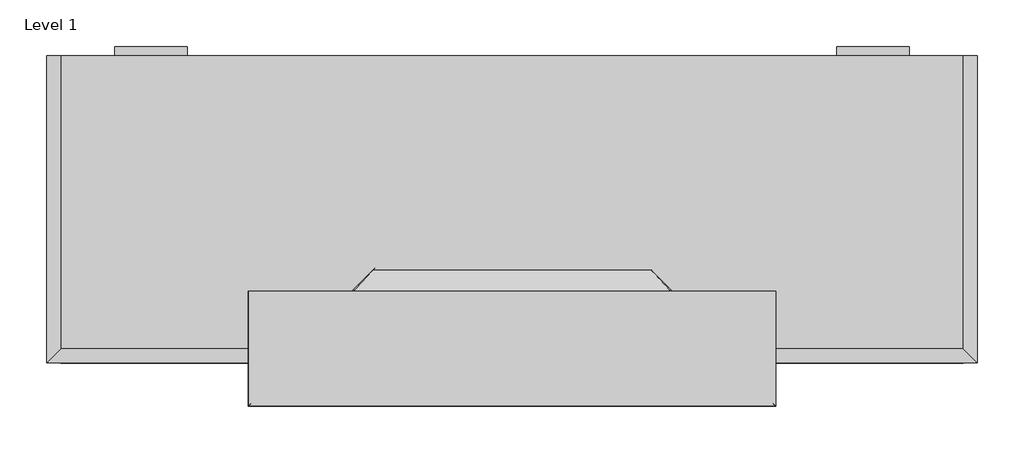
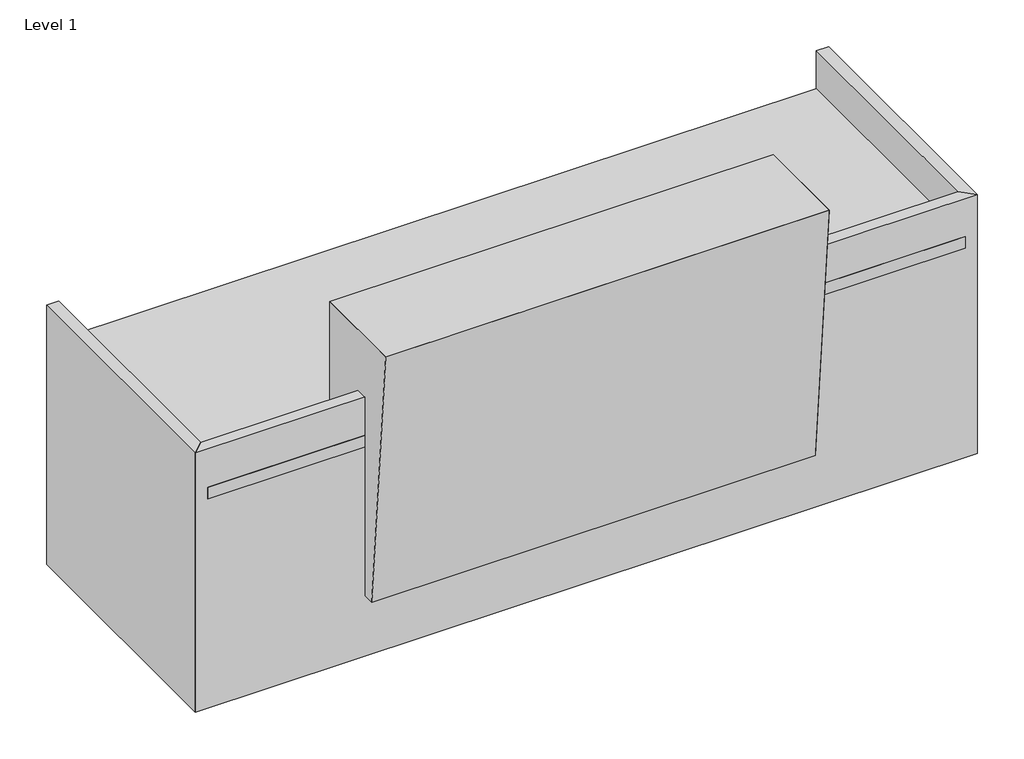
# One storey: 6 proxies.
"""IFC4 building model written with IfcOpenShell, lengths in millimetres."""

import ifcopenshell
import ifcopenshell.guid

model = None  # the IFC model being written
_history = None  # IfcOwnerHistory: only IFC2X3 demands one
_inside = {}  # id of a spatial element -> (the spatial element, [elements in it])
_under = {}  # id of a project, library or spatial element -> (it, [spatial elements below it])
_declared = {}  # id of a project -> (the project, [libraries it declares])
_typed = {}  # id of a type object -> (the type object, [elements of that type])
_made_of = {}  # id of a material, layer set ... -> (it, [elements and type objects made of it])


def new_model(schema):
    """Start an empty IFC model of exactly this schema.

    Asked for "IFC4X3", IfcOpenShell would pick the latest addendum, in which some entities
    have other attributes; the version numbers below select the first issue.
    IFC2X3 requires an IfcOwnerHistory on every rooted entity: one is made here for all.
    """
    global model, _history
    if schema == "IFC4X3":
        model = ifcopenshell.file(schema_version=(4, 3, 0, 0))
    else:
        model = ifcopenshell.file(schema=schema)
    _inside.clear()
    _under.clear()
    _declared.clear()
    _typed.clear()
    _made_of.clear()
    _history = None
    if model.schema == "IFC2X3":
        org = make("IfcOrganization", Name="unknown")
        user = make(
            "IfcPersonAndOrganization",
            ThePerson=make("IfcPerson", FamilyName="unknown"),
            TheOrganization=org,
        )
        app = make(
            "IfcApplication",
            ApplicationDeveloper=org,
            Version="unknown",
            ApplicationFullName="unknown",
            ApplicationIdentifier="unknown",
        )
        _history = make(
            "IfcOwnerHistory",
            OwningUser=user,
            OwningApplication=app,
            ChangeAction="ADDED",
            CreationDate=0,
        )
    return model


def make(cls, **values):
    """One entity of the class cls with the attributes given. An attribute that is None is left unset."""
    return model.create_entity(
        cls, **{name: value for name, value in values.items() if value is not None}
    )


def rooted(cls, **values):
    """An entity with a GlobalId (a new one), such as an element, a storey or a relation."""
    return make(cls, GlobalId=ifcopenshell.guid.new(), OwnerHistory=_history, **values)


def si_unit(unit_type, name, prefix=None):
    """IfcSIUnit, for example si_unit("LENGTHUNIT", "METRE", prefix="MILLI")."""
    return make("IfcSIUnit", UnitType=unit_type, Prefix=prefix, Name=name)


def assignment(units):
    """IfcUnitAssignment: the units of a project."""
    return None if units is None else make("IfcUnitAssignment", Units=units)


def point(xyz):
    """IfcCartesianPoint."""
    return None if xyz is None else make("IfcCartesianPoint", Coordinates=xyz)


def direction(xyz):
    """IfcDirection."""
    return None if xyz is None else make("IfcDirection", DirectionRatios=xyz)


def frame(location, z_axis=None, x_axis=None):
    """IfcAxis2Placement3D, a coordinate frame: its origin and axes. An axis left out is left unset."""
    return make(
        "IfcAxis2Placement3D",
        Location=point(location),
        Axis=direction(z_axis),
        RefDirection=direction(x_axis),
    )


def origin():
    """The frame at (0, 0, 0) with its axes left unset."""
    return frame((0.0, 0.0, 0.0))


def place(relative_to, where):
    """IfcLocalPlacement: puts the frame where relative to a parent placement (None: the world)."""
    return make(
        "IfcLocalPlacement", PlacementRelTo=relative_to, RelativePlacement=where
    )


def context(
    kind, dimensions, precision=None, world=None, true_north=None, identifier=None
):
    """IfcGeometricRepresentationContext, for example the 3D "Model" context."""
    return make(
        "IfcGeometricRepresentationContext",
        ContextIdentifier=identifier,
        ContextType=kind,
        CoordinateSpaceDimension=dimensions,
        Precision=precision,
        WorldCoordinateSystem=world,
        TrueNorth=true_north,
    )


def project(units=None, contexts=None):
    """IfcProject with its units and contexts."""
    return rooted(
        "IfcProject",
        Name="project",
        RepresentationContexts=contexts,
        UnitsInContext=assignment(units),
    )


def spatial(cls, under=None, at=None, **own):
    """A site, building, storey or space (cls), placed at a placement, below another one or the project."""
    s = rooted(cls, ObjectPlacement=at, **own)
    if under is not None:
        _under.setdefault(under.id(), (under, []))[1].append(s)
    return s


def polyline(points):
    """IfcPolyline through the points."""
    return make("IfcPolyline", Points=[point(p) for p in points])


def outline(outer, holes=None, kind="AREA"):
    """IfcArbitraryClosedProfileDef: a profile drawn as a closed curve; with holes, ...WithVoids."""
    if holes is None:
        return make("IfcArbitraryClosedProfileDef", ProfileType=kind, OuterCurve=outer)
    return make(
        "IfcArbitraryProfileDefWithVoids",
        ProfileType=kind,
        OuterCurve=outer,
        InnerCurves=holes,
    )


def extrude(swept, where, along, depth):
    """IfcExtrudedAreaSolid: the profile swept, set in the frame where, extruded along a direction by depth."""
    return make(
        "IfcExtrudedAreaSolid",
        SweptArea=swept,
        Position=where,
        ExtrudedDirection=direction(along),
        Depth=depth,
    )


def faces_of(points, faces, orient=None, outer=None):
    """IfcFace entities. A face is a list of loops; a loop is a list of indices into points, from 0.

    orient and outer hold one flag for each loop. By default every Orientation is true, the
    first loop of a face is its IfcFaceOuterBound and the others are IfcFaceBound.
    """
    made = []
    for i, loops in enumerate(faces):
        bounds = []
        for j, loop in enumerate(loops):
            is_outer = j == 0 if outer is None else outer[i][j]
            bounds.append(
                make(
                    "IfcFaceOuterBound" if is_outer else "IfcFaceBound",
                    Bound=make("IfcPolyLoop", Polygon=[points[k] for k in loop]),
                    Orientation=True if orient is None else orient[i][j],
                )
            )
        made.append(make("IfcFace", Bounds=bounds))
    return made


def faceted_brep(points, faces, orient=None, outer=None, voids=None):
    """IfcFacetedBrep: a solid bounded by flat faces; with voids (closed shells), ...WithVoids."""
    shared = [point(p) for p in points]
    hull = make("IfcClosedShell", CfsFaces=faces_of(shared, faces, orient, outer))
    if voids is None:
        return make("IfcFacetedBrep", Outer=hull)
    return make(
        "IfcFacetedBrepWithVoids",
        Outer=hull,
        Voids=[
            make(cls, CfsFaces=faces_of(shared, fs, o, b)) for cls, fs, o, b in voids
        ],
    )


def shape(context_of_items, identifier, shape_type, items):
    """IfcShapeRepresentation: the items that make up one representation, for example the "Body"."""
    return make(
        "IfcShapeRepresentation",
        ContextOfItems=context_of_items,
        RepresentationIdentifier=identifier,
        RepresentationType=shape_type,
        Items=items,
    )


def source(mapping_origin, context_of_items, identifier, shape_type, items):
    """IfcRepresentationMap: a shape defined once, which mapped items show again and again."""
    return make(
        "IfcRepresentationMap",
        MappingOrigin=mapping_origin,
        MappedRepresentation=shape(context_of_items, identifier, shape_type, items),
    )


def transform(
    local_origin,
    x_axis=None,
    y_axis=None,
    z_axis=None,
    scale=None,
    scale2=None,
    scale3=None,
    uniform=True,
):
    """IfcCartesianTransformationOperator3D, or its non-uniform kind. x_axis, y_axis, z_axis: its Axis1, 2, 3."""
    if uniform:
        return make(
            "IfcCartesianTransformationOperator3D",
            Axis1=direction(x_axis),
            Axis2=direction(y_axis),
            LocalOrigin=point(local_origin),
            Scale=scale,
            Axis3=direction(z_axis),
        )
    return make(
        "IfcCartesianTransformationOperator3DnonUniform",
        Axis1=direction(x_axis),
        Axis2=direction(y_axis),
        LocalOrigin=point(local_origin),
        Scale=scale,
        Axis3=direction(z_axis),
        Scale2=scale2,
        Scale3=scale3,
    )


def mapped(mapping_source, mapping_target):
    """IfcMappedItem: shows the shape of a source again, moved by a transform."""
    return make(
        "IfcMappedItem", MappingSource=mapping_source, MappingTarget=mapping_target
    )


def made_of(thing, what):
    """Note that an element or type object is made of a material, layer set ...; save() writes the relation."""
    if what is not None:
        _made_of.setdefault(what.id(), (what, []))[1].append(thing)
    return thing


def element(
    cls,
    number,
    at=None,
    inside=None,
    cuts=None,
    type_object=None,
    material=None,
    context=None,
    identifier="Body",
    shape_type=None,
    held_by="IfcProductDefinitionShape",
    body=None,
    shapes=None,
    **own,
):
    """One element of the class cls, such as IfcWall. Its Tag is "e" and its number.

    at: its placement. inside: the storey or other place that contains it. cuts: it is an
    opening in that element (IfcRelVoidsElement). A single representation is given by context,
    identifier, shape_type and body (its items); several are given by shapes. held_by: the class
    of the entity that holds the representations. save() writes the other relations.
    """
    e = rooted(cls, Tag="e%d" % number, ObjectPlacement=at, **own)
    if body is not None:
        shapes = [shape(context, identifier, shape_type, body)]
    if shapes is not None:
        e.Representation = make(held_by, Representations=shapes)
    if inside is not None:
        _inside.setdefault(inside.id(), (inside, []))[1].append(e)
    if cuts is not None:
        rooted(
            "IfcRelVoidsElement", RelatingBuildingElement=cuts, RelatedOpeningElement=e
        )
    if type_object is not None:
        _typed.setdefault(type_object.id(), (type_object, []))[1].append(e)
    return made_of(e, material)


def aggregate(whole, parts):
    """IfcRelAggregates: a whole, such as a stair, and the parts it consists of."""
    return rooted("IfcRelAggregates", RelatingObject=whole, RelatedObjects=parts)


def save(model, path):
    """Write the relations noted so far, then the file.

    IfcRelAggregates (storeys below a building ...), IfcRelContainedInSpatialStructure (elements
    in a storey), IfcRelDefinesByType, IfcRelAssociatesMaterial and IfcRelDeclares: one each for
    every whole, place, type object, material and project.
    """
    for whole, parts in _under.values():
        aggregate(whole, parts)
    for where, things in _inside.values():
        rooted(
            "IfcRelContainedInSpatialStructure",
            RelatedElements=things,
            RelatingStructure=where,
        )
    for kind, things in _typed.values():
        rooted("IfcRelDefinesByType", RelatedObjects=things, RelatingType=kind)
    for what, things in _made_of.values():
        rooted("IfcRelAssociatesMaterial", RelatedObjects=things, RelatingMaterial=what)
    for by, libraries in _declared.values():
        rooted("IfcRelDeclares", RelatingContext=by, RelatedDefinitions=libraries)
    model.write(path)


def generic_models_f8b32dde(model_context):
    return source(origin(), model_context, "Body", "SolidModel", [
        extrude(outline(polyline([(-1.5875, 534.9875), (-1331.9125, 534.9875), (-1331.9125, 830.2625), (-1.5875, 830.2625), (-1.5875, 534.9875)])), frame((0.0, 0.0, -19.05), z_axis=(0.0, 0.0, 1.0), x_axis=(1.0, 0.0, 0.0)), (0.0, 0.0, 1.0), 19.05),
        faceted_brep([(-666.75, 0.0, -663.1138026), (31.75, 0.0, 38.1), (-1365.25, 0.0, 38.1), (31.75, 863.6, 114.3), (-666.75, 165.1, -648.5461555), (-1365.25, 863.6, 114.3)], [[[0, 1, 2]], [[3, 4, 5]], [[1, 0, 4, 3]], [[5, 2, 1, 3]], [[0, 2, 5, 4]]]),
        faceted_brep([(-1365.25, 0.0, -190.5), (-1333.5, 0.0, -190.5), (-1333.5, 0.0, 6.2266453), (-1365.25, 0.0, 38.1), (-1333.5, 831.85, -190.5), (-1333.5, 831.85, 79.6251747), (-1365.25, 863.6, 114.3), (-1365.25, 863.6, -190.5)], [[[0, 1, 2, 3]], [[2, 1, 4, 5]], [[6, 3, 2, 5]], [[5, 4, 7, 6]], [[7, 4, 1, 0]], [[0, 3, 6, 7]]]),
        faceted_brep([(0.0, 831.85, 79.6251747), (31.75, 863.6, 114.3), (-1365.25, 863.6, 114.3), (-1333.5, 831.85, 79.6251747), (31.75, 863.6, -190.5), (-1365.25, 863.6, -190.5), (0.0, 831.85, -190.5), (-1333.5, 831.85, -190.5)], [[[0, 1, 2, 3]], [[1, 4, 5, 2]], [[4, 6, 7, 5]], [[6, 0, 3, 7]], [[2, 5, 7, 3]], [[4, 1, 0, 6]]]),
        faceted_brep([(0.0, 0.0, -190.5), (31.75, 0.0, -190.5), (31.75, 0.0, 38.1), (0.0, 0.0, 6.2266453), (31.75, 863.6, 114.3), (31.75, 863.6, -190.5), (0.0, 831.85, -190.5), (0.0, 831.85, 79.6251747)], [[[0, 1, 2, 3]], [[4, 5, 6, 7]], [[7, 3, 2, 4]], [[6, 5, 1, 0]], [[1, 5, 4, 2]], [[7, 6, 0, 3]]]),
    ])


def generic_models_16f8150b(model_context):
    return source(origin(), model_context, "Body", "SweptSolid", [
        extrude(outline(polyline([(234.6325, 0.0), (42.8625, 0.0), (42.8625, 8.89), (234.6325, 8.89), (234.6325, 0.0)])), frame((0.0, 0.0, 25.4), z_axis=(0.0, 0.0, 1.0), x_axis=(1.0, 0.0, 0.0)), (0.0, 0.0, 1.0), 27.94),
    ])


def generic_models_c95edcf3(model_context):
    return source(origin(), model_context, "Body", "SweptSolid", [
        extrude(outline(polyline([(2425.7, 19.05), (2406.65, 19.05), (2406.65, 698.5), (2425.7, 698.5), (2425.7, 19.05)])), frame((0.0, 0.0, -749.3), z_axis=(0.0, 0.0, 1.0), x_axis=(1.0, 0.0, 0.0)), (0.0, 0.0, 1.0), 749.3),
        extrude(outline(polyline([(0.0, 2425.7), (-774.7, 2425.7), (-774.7, 2463.8), (38.1, 2463.8), (0.0, 2425.7)])), frame((0.0, 0.0, 0.0), z_axis=(0.0, 1.0, 0.0), x_axis=(0.0, 0.0, 1.0)), (0.0, 0.0, 1.0), 863.6),
        extrude(outline(polyline([(1968.5, 698.5), (2406.65, 698.5), (2406.65, 679.45), (1968.5, 679.45), (1968.5, 698.5)])), frame((0.0, 0.0, -749.3), z_axis=(0.0, 0.0, 1.0), x_axis=(1.0, 0.0, 0.0)), (0.0, 0.0, 1.0), 730.25),
        extrude(outline(polyline([(57.15, 19.05), (57.15, 698.5), (495.3, 698.5), (495.3, 19.05), (57.15, 19.05)])), frame((0.0, 0.0, -19.05), z_axis=(0.0, 0.0, 1.0), x_axis=(1.0, 0.0, 0.0)), (0.0, 0.0, 1.0), 19.05),
        extrude(outline(polyline([(2423.31875, 354.80625), (1951.83125, 354.80625), (1951.83125, 524.271875), (2423.31875, 524.271875), (2423.31875, 354.80625)])), frame((0.0, 0.0, -771.525), z_axis=(0.0, 0.0, 1.0), x_axis=(1.0, 0.0, 0.0)), (0.0, 0.0, 1.0), 19.05),
        extrude(outline(polyline([(57.15, 698.5), (495.3, 698.5), (495.3, 679.45), (57.15, 679.45), (57.15, 698.5)])), frame((0.0, 0.0, -749.3), z_axis=(0.0, 0.0, 1.0), x_axis=(1.0, 0.0, 0.0)), (0.0, 0.0, 1.0), 730.25),
        extrude(outline(polyline([(38.1, 698.5), (57.15, 698.5), (57.15, 19.05), (38.1, 19.05), (38.1, 698.5)])), frame((0.0, 0.0, -749.3), z_axis=(0.0, 0.0, 1.0), x_axis=(1.0, 0.0, 0.0)), (0.0, 0.0, 1.0), 749.3),
        extrude(outline(polyline([(38.1, 698.5), (38.1, 736.6), (2425.7, 736.6), (2425.7, 698.5), (38.1, 698.5)])), frame((0.0, 0.0, -774.7), z_axis=(0.0, 0.0, 1.0), x_axis=(1.0, 0.0, 0.0)), (0.0, 0.0, 1.0), 812.8),
        extrude(outline(polyline([(511.96875, 696.11875), (511.96875, 19.05), (40.48125, 19.05), (40.48125, 696.11875), (511.96875, 696.11875)])), frame((0.0, 0.0, -771.525), z_axis=(0.0, 0.0, 1.0), x_axis=(1.0, 0.0, 0.0)), (0.0, 0.0, 1.0), 19.05),
        extrude(outline(polyline([(2406.65, 698.5), (2406.65, 19.05), (1968.5, 19.05), (1968.5, 698.5), (2406.65, 698.5)])), frame((0.0, 0.0, -19.05), z_axis=(0.0, 0.0, 1.0), x_axis=(1.0, 0.0, 0.0)), (0.0, 0.0, 1.0), 19.05),
        extrude(outline(polyline([(495.3, 38.1), (495.3, 0.0), (57.15, 0.0), (57.15, 38.1), (495.3, 38.1)])), frame((0.0, 0.0, -749.3), z_axis=(0.0, 0.0, 1.0), x_axis=(1.0, 0.0, 0.0)), (0.0, 0.0, 1.0), 730.25),
        extrude(outline(polyline([(2406.65, 38.1), (2406.65, 0.0), (1968.5, 0.0), (1968.5, 38.1), (2406.65, 38.1)])), frame((0.0, 0.0, -749.3), z_axis=(0.0, 0.0, 1.0), x_axis=(1.0, 0.0, 0.0)), (0.0, 0.0, 1.0), 730.25),
        extrude(outline(polyline([(2423.31875, 526.653125), (1951.83125, 526.653125), (1951.83125, 696.11875), (2423.31875, 696.11875), (2423.31875, 526.653125)])), frame((0.0, 0.0, -771.525), z_axis=(0.0, 0.0, 1.0), x_axis=(1.0, 0.0, 0.0)), (0.0, 0.0, 1.0), 19.05),
        extrude(outline(polyline([(38.1, 0.0), (-774.7, 0.0), (-774.7, 38.1), (0.0, 38.1), (38.1, 0.0)])), frame((0.0, 0.0, 0.0), z_axis=(0.0, 1.0, 0.0), x_axis=(0.0, 0.0, 1.0)), (0.0, 0.0, 1.0), 863.6),
        extrude(outline(polyline([(495.3, 19.05), (495.3, 698.5), (514.35, 698.5), (514.35, 19.05), (495.3, 19.05)])), frame((0.0, 0.0, -749.3), z_axis=(0.0, 0.0, 1.0), x_axis=(1.0, 0.0, 0.0)), (0.0, 0.0, 1.0), 749.3),
        extrude(outline(polyline([(1968.5, 698.5), (1968.5, 19.05), (1949.45, 19.05), (1949.45, 698.5), (1968.5, 698.5)])), frame((0.0, 0.0, -749.3), z_axis=(0.0, 0.0, 1.0), x_axis=(1.0, 0.0, 0.0)), (0.0, 0.0, 1.0), 749.3),
        extrude(outline(polyline([(2423.31875, 352.425), (2423.31875, 19.05), (1951.83125, 19.05), (1951.83125, 352.425), (2423.31875, 352.425)])), frame((0.0, 0.0, -771.525), z_axis=(0.0, 0.0, 1.0), x_axis=(1.0, 0.0, 0.0)), (0.0, 0.0, 1.0), 19.05),
        extrude(outline(polyline([(38.1, 0.0), (0.0, 38.1), (0.0, 2425.7), (38.1, 2463.8), (38.1, 0.0)])), frame((0.0, 0.0, 0.0), z_axis=(0.0, 1.0, 0.0), x_axis=(0.0, 0.0, 1.0)), (0.0, 0.0, 1.0), 863.6),
    ])


model = new_model("IFC4")

# Units and contexts
model_context = context("Model", 3, world=origin())
ifc_project = project(units=[si_unit("LENGTHUNIT", "METRE", prefix="MILLI")], contexts=[model_context])

# Site, building, storey
site = spatial("IfcSite", under=ifc_project)
building = spatial("IfcBuilding", under=site)
storey = spatial("IfcBuildingStorey", under=building, Name="Level 1", Elevation=0.0)

# Proxies
placement = place(None, origin())
generic_models_shape = generic_models_f8b32dde(model_context)
element("IfcBuildingElementProxy", 1, Name="SALUTE^ADMIN_34x55 SLOPED TRANS-PARTS SOLID", ObjectType="SALUTE^ADMIN_34x55 SLOPED TRANS-PARTS SOLID", at=placement, inside=storey, context=model_context, shape_type="MappedRepresentation", body=[
    mapped(generic_models_shape, transform((1898.65, -812.8, 203.2), x_axis=(1.0, 0.0, 0.0), y_axis=(0.0, 0.0, 1.0), z_axis=(0.0, -1.0, 0.0))),
])
generic_models_2_shape = generic_models_16f8150b(model_context)
element("IfcBuildingElementProxy", 2, Name="HAFELE 102.12.004-7_5 INCH", ObjectType="HAFELE 102.12.004-7_5 INCH", at=placement, inside=storey, context=model_context, shape_type="MappedRepresentation", body=[
    mapped(generic_models_2_shape, transform((2326.3225, -28.575, 297.18), x_axis=(-1.0, 0.0, 0.0), y_axis=(0.0, 0.0, 1.0), z_axis=(0.0, 1.0, 0.0))),
])
element("IfcBuildingElementProxy", 3, Name="HAFELE 102.12.004-7_5 INCH", ObjectType="HAFELE 102.12.004-7_5 INCH", at=placement, inside=storey, context=model_context, shape_type="MappedRepresentation", body=[
    mapped(generic_models_2_shape, transform((2326.3225, -28.575, 640.87375), x_axis=(-1.0, 0.0, 0.0), y_axis=(0.0, 0.0, 1.0), z_axis=(0.0, 1.0, 0.0))),
])
element("IfcBuildingElementProxy", 4, Name="HAFELE 102.12.004-7_5 INCH", ObjectType="HAFELE 102.12.004-7_5 INCH", at=placement, inside=storey, context=model_context, shape_type="MappedRepresentation", body=[
    mapped(generic_models_2_shape, transform((2326.3225, -28.575, 469.026875), x_axis=(-1.0, 0.0, 0.0), y_axis=(0.0, 0.0, 1.0), z_axis=(0.0, 1.0, 0.0))),
])
element("IfcBuildingElementProxy", 5, Name="HAFELE 102.12.004-7_5 INCH", ObjectType="HAFELE 102.12.004-7_5 INCH", at=placement, inside=storey, context=model_context, shape_type="MappedRepresentation", body=[
    mapped(generic_models_2_shape, transform((414.9725, -28.575, 640.87375), x_axis=(-1.0, 0.0, 0.0), y_axis=(0.0, 0.0, 1.0), z_axis=(0.0, 1.0, 0.0))),
])
generic_models_3_shape = generic_models_c95edcf3(model_context)
element("IfcBuildingElementProxy", 6, Name="SALUTE^RECEPT_32x97 BASE-PARTS SOLID", ObjectType="SALUTE^RECEPT_32x97 BASE-PARTS SOLID", at=placement, inside=storey, context=model_context, shape_type="MappedRepresentation", body=[
    mapped(generic_models_3_shape, transform((0.0, -774.7, 0.0), x_axis=(1.0, 0.0, 0.0), y_axis=(0.0, 0.0, 1.0), z_axis=(0.0, -1.0, 0.0))),
])

save(model, "model.ifc")
